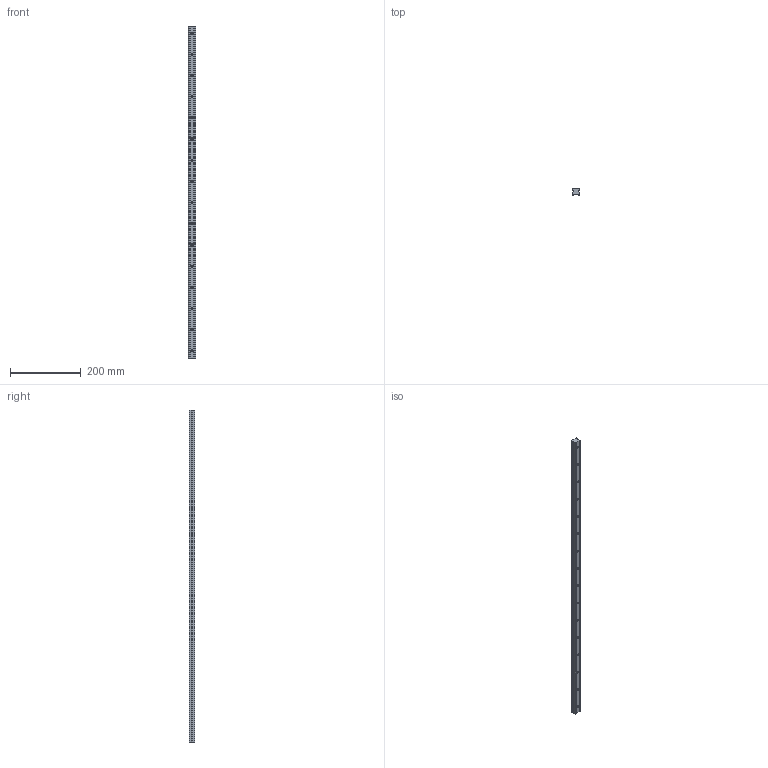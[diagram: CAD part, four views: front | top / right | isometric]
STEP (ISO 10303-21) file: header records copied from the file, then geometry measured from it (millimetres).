
FILE_DESCRIPTION (( 'STEP AP203' ), '1' );
FILE_NAME ('L1016.BL20-0940.step', '2019-06-12T11:47:50', ( '' ), ( '' ), 'SwSTEP 2.0', 'SolidWorks 2017', '' );
FILE_SCHEMA (( 'CONFIG_CONTROL_DESIGN' ));
Length unit declared in the file: millimetre
Products named in the file (1): L1016.BL20-0940
Bounding box: 20 x 16.3 x 940 mm (x, y, z)
Volume: 261113.6 mm3; surface area: 76080 mm2
Topology: 1 solids, 1 shells, 106 faces, 264 edges, 176 vertices
Faces by surface type: cylinder 68, plane 38
Entity records: 3365 total; most frequent: DIRECTION 614, CARTESIAN_POINT 547, ORIENTED_EDGE 528, EDGE_CURVE 264, AXIS2_PLACEMENT_3D 243, VERTEX_POINT 176, EDGE_LOOP 154, CIRCLE 136
